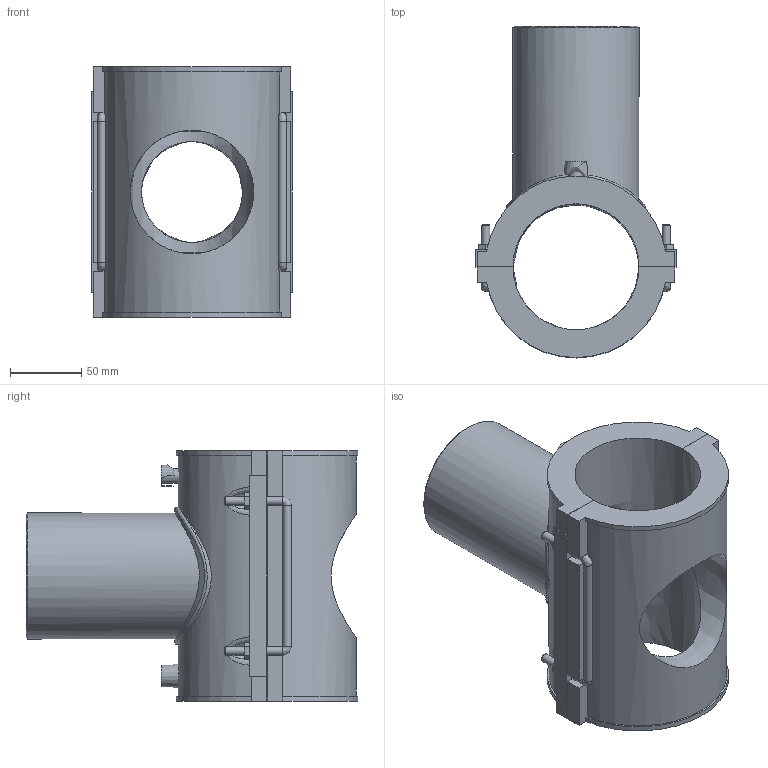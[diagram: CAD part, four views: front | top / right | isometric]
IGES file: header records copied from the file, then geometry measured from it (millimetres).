
Global section: file name: 5958BB03030030.ipt; native system: Autodesk Inventor 2019; preprocessor: unknown; author: KIM; date: 20210830.101253; units: inch
Bounding box: 141.19 x 233.46 x 176.02 mm (x, y, z)
Volume: 1206590.5 mm3; surface area: 210184.4 mm2
Topology: 3 solids, 4 shells, 150 faces, 381 edges, 242 vertices
Faces by surface type: plane 89, cylinder 27, revolution 14, bspline 13, cone 7
Full cylindrical faces by diameter (mm): 4 x2, 6 x8, 88.7 x1
